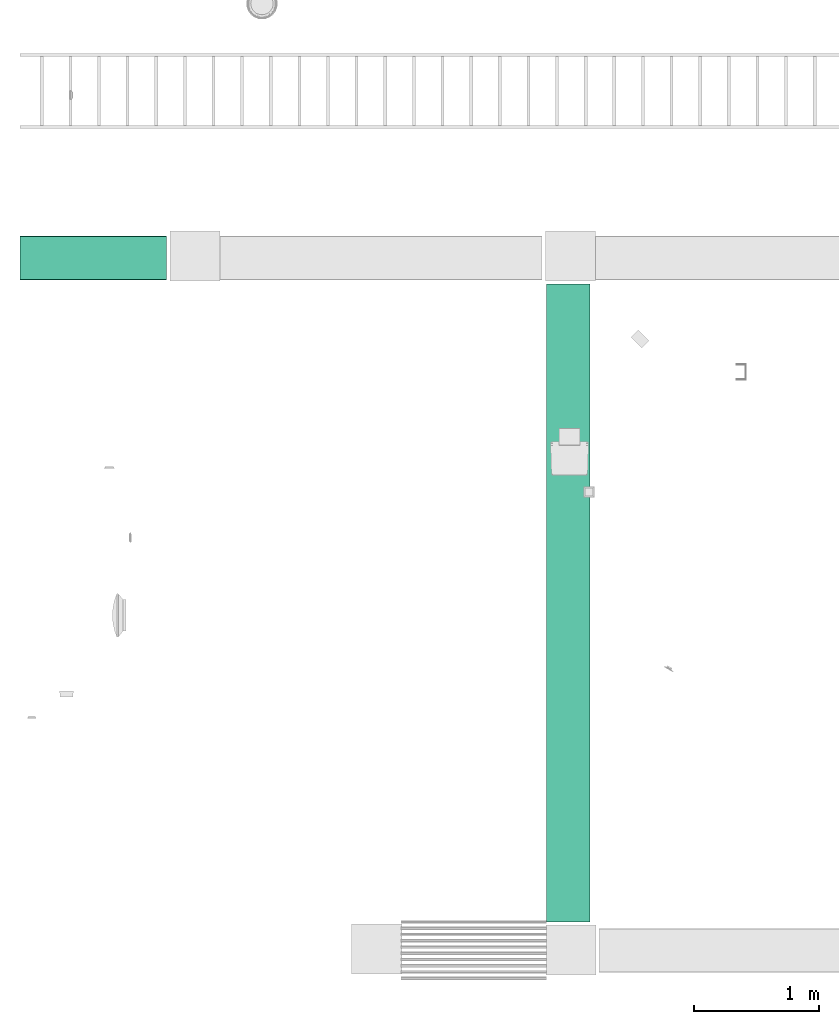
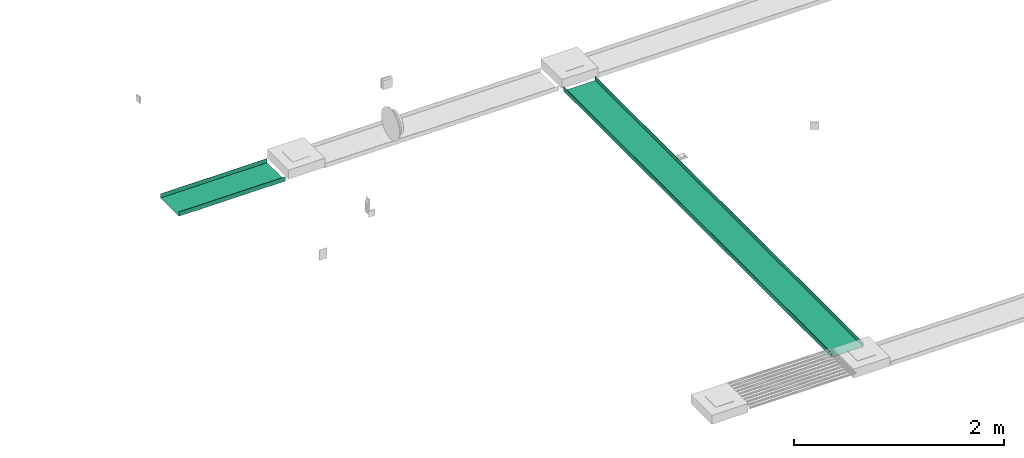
# One storey, part 20 of 24: 2 flow segments.
"""IFC2X3 building model written with IfcOpenShell, lengths in millimetres."""

from ifc_helpers import new_model, entity, si_unit, converted_unit, derived_unit, direction, frame, origin_with_axes, place, context, subcontext, project, spatial, open_shell, faceted_brep, surface_model, source, transform, mapped, type_object, element, save


model = new_model("IFC2X3")

# Units and contexts
model_context = context("Model", 3, precision=0.01, world=frame((0.0, 4.29681676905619e-09, 0.0)), true_north=direction((4.01073788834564e-13, 1.0)))
plan_context = context("Plan", 3, precision=0.01, world=frame((0.0, 4.29681676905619e-09, 0.0)), true_north=direction((4.01073788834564e-13, 1.0)))
body_context = subcontext(model_context, "Body", "Model", "MODEL_VIEW")
ifc_project = project(units=[converted_unit("PLANEANGLEUNIT", "DEGREE", entity("IfcPositiveLengthMeasure", 0.0174532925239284), si_unit("PLANEANGLEUNIT", "RADIAN"), dimensions=[0, 0, 0, 0, 0, 0, 0]), si_unit("AREAUNIT", "SQUARE_METRE"), si_unit("LENGTHUNIT", "METRE", prefix="MILLI"), si_unit("MASSUNIT", "GRAM", prefix="KILO"), si_unit("POWERUNIT", "WATT"), si_unit("PRESSUREUNIT", "PASCAL"), si_unit("FORCEUNIT", "NEWTON", prefix="KILO"), si_unit("ELECTRICVOLTAGEUNIT", "VOLT"), si_unit("ELECTRICCURRENTUNIT", "AMPERE"), si_unit("THERMODYNAMICTEMPERATUREUNIT", "DEGREE_CELSIUS"), si_unit("TIMEUNIT", "SECOND"), si_unit("VOLUMEUNIT", "CUBIC_METRE"), derived_unit("LINEARVELOCITYUNIT", [(si_unit("LENGTHUNIT", "METRE"), 1), (si_unit("TIMEUNIT", "SECOND"), -1)]), derived_unit("VOLUMETRICFLOWRATEUNIT", [(si_unit("VOLUMEUNIT", "CUBIC_METRE"), 1), (si_unit("TIMEUNIT", "SECOND"), -1)]), derived_unit("THERMALTRANSMITTANCEUNIT", [(si_unit("POWERUNIT", "WATT"), 1), (si_unit("THERMODYNAMICTEMPERATUREUNIT", "KELVIN"), -1), (si_unit("AREAUNIT", "SQUARE_METRE"), -1)]), derived_unit("SOUNDPRESSUREUNIT", [(si_unit("PRESSUREUNIT", "PASCAL"), 1)])], contexts=[model_context, plan_context])

# Site, building, storey
site_placement = place(None, frame((0.0, -4.29681676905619e-09, 0.0), z_axis=(0.0, 0.0, 1.0), x_axis=(1.0, 0.0, 0.0)))
site = spatial("IfcSite", under=ifc_project, at=site_placement, Name="ENGM", CompositionType="ELEMENT")
building_placement = place(site_placement, frame((0.0, 4.29681676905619e-09, 0.0), z_axis=(0.0, 0.0, 1.0), x_axis=(1.0, 0.0, 0.0)))
building = spatial("IfcBuilding", under=site, at=building_placement, Name="TH", CompositionType="ELEMENT")
storey_placement = place(building_placement, frame((0.0, 0.0, 210200.0), z_axis=(0.0, 0.0, 1.0), x_axis=(1.0, 0.0, 0.0)))
storey = spatial("IfcBuildingStorey", under=building, at=storey_placement, Name="Nivå F - 0,7 m", CompositionType="ELEMENT", Elevation=210200.0)

# Flow segments
cable_carrier_segment_type = type_object("IfcCableCarrierSegmentType", Name="Gulvkanal", PredefinedType="CABLETRAYSEGMENT")
shared_shape = source(origin_with_axes(), body_context, "Body", "SurfaceModel", [
    surface_model("IfcShellBasedSurfaceModel", [(0.0, -175.0, -25.0), (0.0, 172.46, -22.46), (0.0, 175.0, -25.0), (0.0, 175.0, 25.0), (0.0, -175.0, 25.0), (0.0, -172.46, -22.46), (0.0, 172.46, 25.0), (0.0, -172.46, 25.0), (5095.00005, 175.0, -25.0), (5095.00005, 172.46, -22.46), (5095.00005, -175.0, -25.0), (5095.00005, 175.0, 25.0), (5095.00005, -172.46, -22.46), (5095.00005, -175.0, 25.0), (5095.00005, 172.46, 25.0), (5095.00005, -172.46, 25.0)], [open_shell([[[0, 1, 2]], [[3, 2, 1]], [[4, 5, 0]], [[1, 0, 5]], [[1, 6, 3]], [[5, 4, 7]], [[8, 9, 10]], [[9, 8, 11]], [[10, 12, 13]], [[12, 10, 9]], [[11, 14, 9]], [[15, 13, 12]], [[4, 0, 10]], [[10, 13, 4]], [[7, 4, 13]], [[13, 15, 7]], [[5, 7, 15]], [[15, 12, 5]], [[1, 5, 9]], [[12, 9, 5]], [[6, 1, 9]], [[9, 14, 6]], [[3, 6, 14]], [[14, 11, 3]], [[2, 3, 11]], [[11, 8, 2]], [[0, 2, 10]], [[8, 10, 2]]])]),
])
flow_segment_1_placement = place(storey_placement, frame((899489.64599, 481940.9875, -100.0), z_axis=(0.0, 0.0, 1.0), x_axis=(0.0, -1.0, 0.0)))
element("IfcFlowSegment", 1, at=flow_segment_1_placement, inside=storey, type_object=cable_carrier_segment_type, Name="Gulvkanal", context=body_context, shape_type="MappedRepresentation", body=[
    mapped(shared_shape, transform((0.0, 0.0, 0.0), scale=1.0)),
])
flow_segment_2_placement = place(storey_placement, frame((896280.0125, 482146.65751, -100.0), z_axis=(0.0, 0.0, 1.0), x_axis=(-1.0, 0.0, 0.0)))
element("IfcFlowSegment", 2, at=flow_segment_2_placement, inside=storey, type_object=cable_carrier_segment_type, Name="Gulvkanal", context=body_context, shape_type="Brep", body=[
    faceted_brep([(0.0, 172.46, -22.46), (0.0, 175.0, -25.0), (0.0, 175.0, 25.0), (0.0, -172.46, -22.46), (0.0, -175.0, -25.0), (0.0, -175.0, 25.0), (0.0, -172.46, 25.0), (0.0, 172.46, 25.0), (1168.1063314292, -175.0, 2.29330193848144), (1168.1063314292, -175.0, -25.0), (1168.1063314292, -175.0, 25.0), (1168.1063314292, -173.613500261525, 25.0), (1168.1063314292, -172.46, 25.0), (1168.1063314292, -172.46, -22.46), (1168.1063314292, -172.46, 3.44680220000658), (1168.1063314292, 172.46, -22.46), (1168.1063314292, -15.8201140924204, -22.46), (1168.1063314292, 172.46, 25.0), (1168.1063314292, 172.46, -0.906802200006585), (1168.1063314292, 173.846499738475, 25.0), (1168.1063314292, 175.0, 25.0), (1168.1063314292, 175.0, -2.29330193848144), (1168.1063314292, 175.0, -25.0), (1168.1063314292, 16.0531135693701, -25.0)], [[[0, 1, 2]], [[1, 0, 3]], [[3, 4, 1]], [[4, 3, 5]], [[6, 5, 3]], [[2, 7, 0]], [[8, 9, 4, 5]], [[10, 8, 5]], [[11, 10, 5, 6]], [[12, 11, 6]], [[13, 14, 6, 3]], [[14, 12, 6]], [[15, 16, 3, 0]], [[16, 13, 3]], [[17, 18, 0, 7]], [[18, 15, 0]], [[19, 17, 7, 2]], [[20, 19, 2]], [[21, 20, 2, 1]], [[22, 21, 1]], [[9, 23, 1, 4]], [[23, 22, 1]], [[10, 11, 12, 14, 13, 16, 15, 18, 17, 19, 20, 21, 22, 23, 9, 8]]], orient=[[False], [False], [False], [False], [False], [False], [False], [False], [False], [False], [False], [False], [False], [False], [False], [False], [False], [False], [False], [False], [False], [False], [False]]),
])

save(model, "model.ifc")
